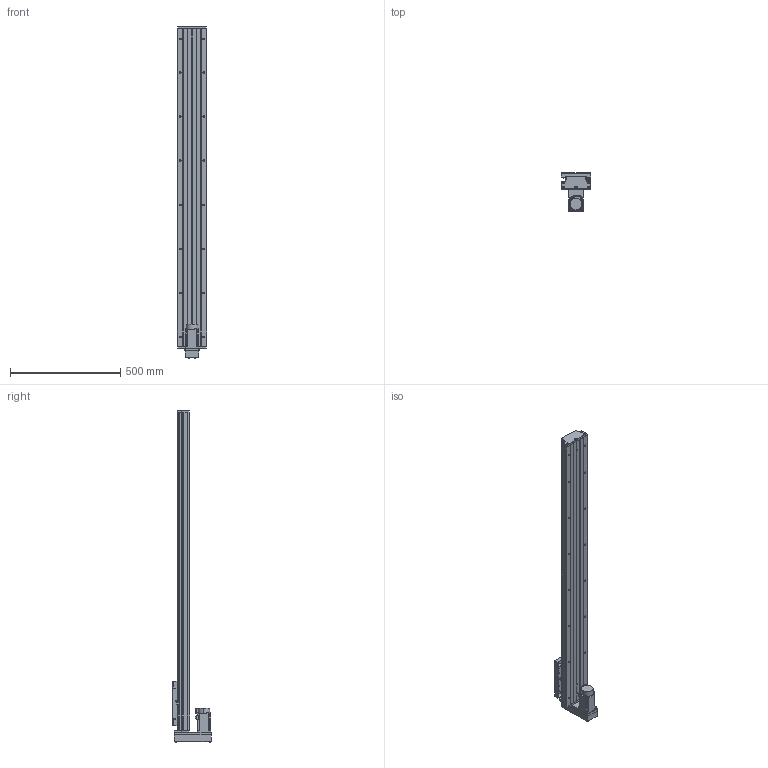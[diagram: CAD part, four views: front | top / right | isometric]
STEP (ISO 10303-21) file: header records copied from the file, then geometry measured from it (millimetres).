
FILE_DESCRIPTION (( 'STEP AP203' ), '1' );
FILE_NAME ('GTH14-1200-BM-M40-C4.step', '2023-06-30T08:44:39', ( '微软用户' ), ( '微软中国' ), 'SwSTEP 2.0', 'SolidWorks 2020', '' );
FILE_SCHEMA (( 'CONFIG_CONTROL_DESIGN' ));
Length unit declared in the file: millimetre
Products named in the file (19): す晦芛蹟隊 M3℅5; GTH14-001_1200; EE_SX911P_R; HG-KN43J-S100; GTH14-002_GTH14-002; CTHA60-016; GBT 70.2-M4¡Á35_M4¡Á35; GTH14-004; GBT 70.1-M3℅5; GTH14-015-2_CTHA86-015-2; GTH14-005; GBT77-2000 M3×3; GTH14-033; GB1155-6X6; GTH14-031; GTH14-1200-BM-M40-C4; GBT70.1 M5℅16; GBT 70.2-M3¡Á5_M3¡Á6; CTHA60-017
Assembly tree (58 placements, depth 2):
  GTH14-1200-BM-M40-C4
    GTH14-001_1200
    GTH14-002_GTH14-002
    GTH14-004
    GTH14-005
    GB1155-6X6  x2
    GBT70.1 M5℅16  x10
    CTHA60-017  x3
    EE_SX911P_R  x3
    CTHA60-016  x2
    GBT 70.1-M3℅5  x6
    GBT77-2000 M3×3  x6
    GTH14-031
    GBT 70.2-M3¡Á5_M3¡Á6  x8
    す晦芛蹟隊 M3℅5  x6
    HG-KN43J-S100
    GBT 70.2-M4¡Á35_M4¡Á35  x4
    GTH14-015-2_CTHA86-015-2
    GTH14-033
Bounding box: 135 x 177.5 x 1504.2 mm (x, y, z)
Volume: 7925002.1 mm3; surface area: 1253679 mm2
Topology: 61 solids, 61 shells, 2483 faces, 5905 edges, 3642 vertices
Faces by surface type: plane 1313, cylinder 680, cone 314, torus 124, sphere 32, bspline 20
Entity records: 45082 total; most frequent: CARTESIAN_POINT 10007, DIRECTION 6669, ORIENTED_EDGE 6500, EDGE_CURVE 3250, AXIS2_PLACEMENT_3D 2296, LINE 2077, VECTOR 2077, VERTEX_POINT 2060
